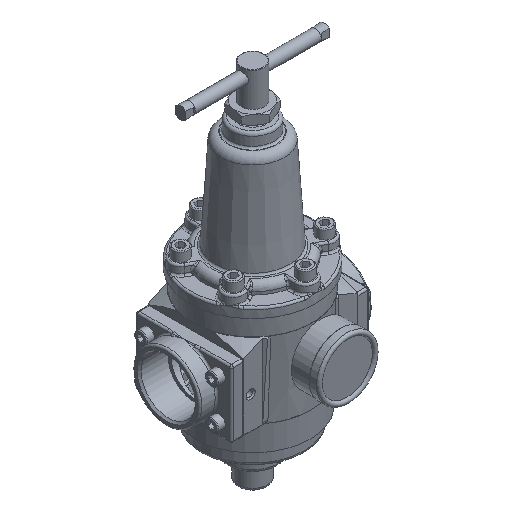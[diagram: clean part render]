
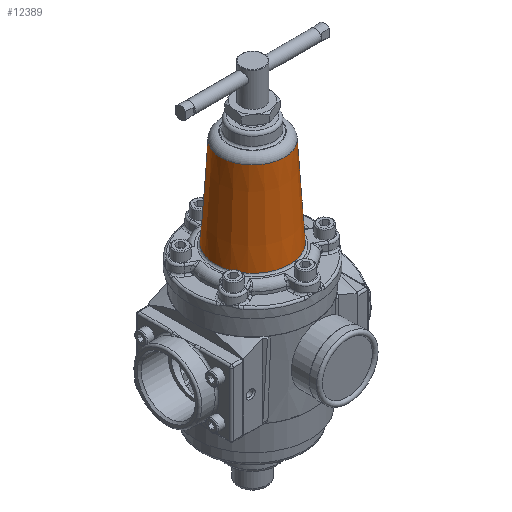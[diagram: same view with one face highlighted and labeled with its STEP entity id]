
A CAD part, isometric view. The second image highlights one B-rep face of the part: STEP entity #12389.
In plain terms, the highlighted conical face has half-angle 3.611 degrees and reference radius 35.75 mm.
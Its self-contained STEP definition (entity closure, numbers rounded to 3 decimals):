
#12327=CARTESIAN_POINT('',(0.0,115.504,32.973));
#12328=VERTEX_POINT('',#12327);
#12329=CARTESIAN_POINT('',(0.,115.504,0.));
#12330=DIRECTION('',(0.0,1.0,0.0));
#12331=DIRECTION('',(0.0,0.0,-1.0));
#12332=AXIS2_PLACEMENT_3D('',#12329,#12330,#12331);
#12333=CIRCLE('',#12332,32.973);
#12334=EDGE_CURVE('',#12328,#12328,#12333,.T.);
#12370=CARTESIAN_POINT('',(0.0,71.5,0.));
#12371=DIRECTION('',(0.0,-1.0,0.0));
#12372=DIRECTION('',(0.0,0.0,1.0));
#12373=AXIS2_PLACEMENT_3D('',#12370,#12371,#12372);
#12374=CONICAL_SURFACE('',#12373,35.75,3.611);
#12375=CARTESIAN_POINT('',(0.,21.874,38.882));
#12376=VERTEX_POINT('',#12375);
#12377=CARTESIAN_POINT('',(0.,21.874,0.));
#12378=DIRECTION('',(0.0,-1.0,0.0));
#12379=DIRECTION('',(0.0,0.0,-1.0));
#12380=AXIS2_PLACEMENT_3D('',#12377,#12378,#12379);
#12381=CIRCLE('',#12380,38.882);
#12382=EDGE_CURVE('',#12376,#12376,#12381,.T.);
#12383=ORIENTED_EDGE('',*,*,#12382,.F.);
#12384=EDGE_LOOP('',(#12383));
#12385=FACE_OUTER_BOUND('',#12384,.T.);
#12386=ORIENTED_EDGE('',*,*,#12334,.F.);
#12387=EDGE_LOOP('',(#12386));
#12388=FACE_BOUND('',#12387,.T.);
#12389=ADVANCED_FACE('',(#12385,#12388),#12374,.T.);
